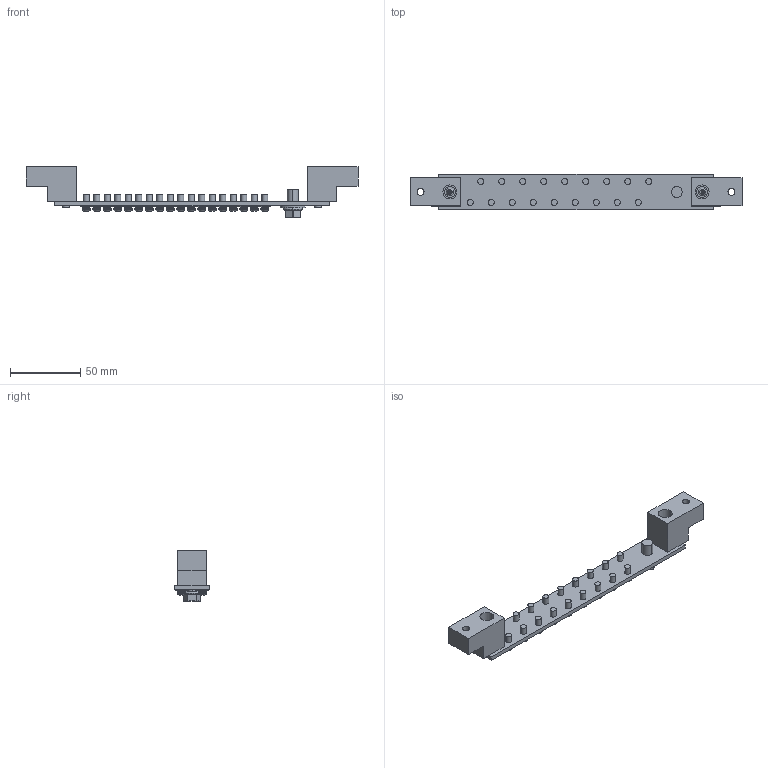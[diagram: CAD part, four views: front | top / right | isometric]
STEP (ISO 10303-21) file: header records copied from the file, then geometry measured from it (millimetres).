
FILE_DESCRIPTION(('Creo Elements/Direct Modeling STEP Export'),'2;1');
FILE_NAME('19N.stp','2025-07-23T16:12:21',(''),(''),'PTC Creo Elements/Direct Modeling STEP processor for AP214 (Solid Model)','PTC Creo Elements/Direct Modeling 19.0 09-May-2014 (C) Parametric Technology GmbH','');
FILE_SCHEMA(('AUTOMOTIVE_DESIGN { 1 0 10303 214 1 1 1 1 }'));
Length unit declared in the file: millimetre
Products named in the file (18): USER_LIBRARY-SAN_ZU_HE_LUO_S_1.prt; quilt.1; quilt.2; quilt.3; M5.1.1.1.1.1.1.1.1.2; a1; SCREW_1_1.PRT; SCREW_1_2.PRT; SCREW_1.ASM; SCREW_0723.stp; M5.1.1.1.1.1.1.1.1.1.1.1.1.1.1; CU; HOLD.1; 19N
Assembly tree (36 placements, depth 4):
  19N
    M5.1.1.1.1.1.1.1.1.2  x9
      quilt.3
      quilt.2
      quilt.1
      USER_LIBRARY-SAN_ZU_HE_LUO_S_1.prt
    HOLD.1  x2
    CU
    M5.1.1.1.1.1.1.1.1.1.1.1.1.1.1  x2
      quilt.3
      quilt.2
      quilt.1
      USER_LIBRARY-SAN_ZU_HE_LUO_S_1.prt
    SCREW_0723.stp
      SCREW_1.ASM
        SCREW_1_2.PRT
        SCREW_1_1.PRT
    a1
      M5.1.1.1.1.1.1.1.1.2  x9
        quilt.3
        quilt.2
        quilt.1
        USER_LIBRARY-SAN_ZU_HE_LUO_S_1.prt
Bounding box: 237 x 25 x 36.2 mm (x, y, z)
Volume: 43955.3 mm3; surface area: 30146.4 mm2
Topology: 65 solids, 65 shells, 1012 faces, 2502 edges, 1648 vertices
Faces by surface type: plane 552, cylinder 316, torus 84, bspline 60
Entity records: 10719 total; most frequent: CARTESIAN_POINT 4646, ORIENTED_EDGE 1032, DIRECTION 988, EDGE_CURVE 516, AXIS2_PLACEMENT_3D 368, VERTEX_POINT 342, EDGE_LOOP 262, VECTOR 252
